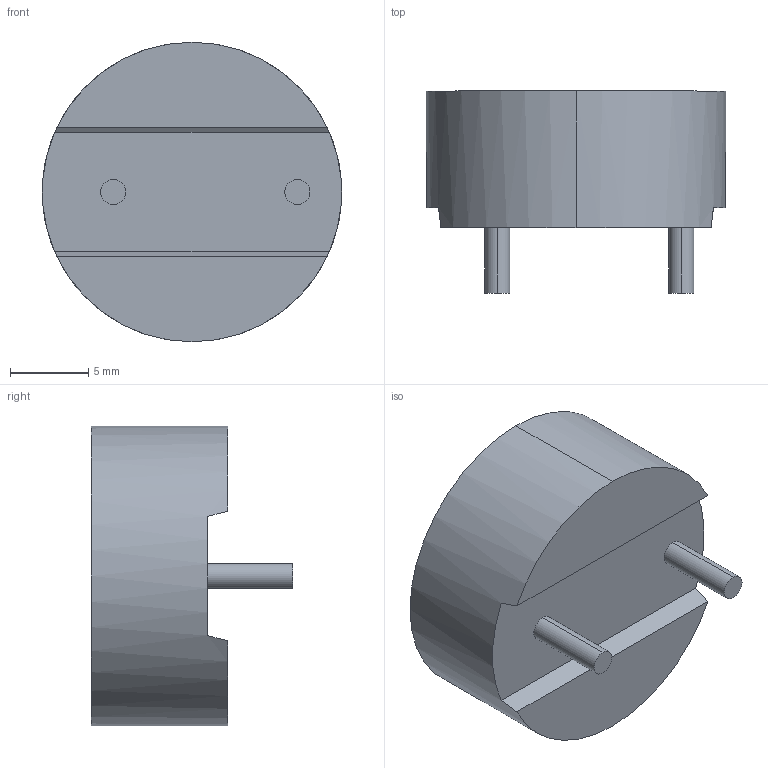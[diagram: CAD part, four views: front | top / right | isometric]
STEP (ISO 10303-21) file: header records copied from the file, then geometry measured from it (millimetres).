
FILE_DESCRIPTION (( 'STEP AP214' ), '1' );
FILE_NAME ('IHTH_IHTH0750IZ 3.3uH.step', '2014-06-30T13:34:37', ( '' ), ( '' ), 'SwSTEP 2.0', 'SolidWorks 2014', '' );
FILE_SCHEMA (( 'AUTOMOTIVE_DESIGN' ));
Length unit declared in the file: inch
Products named in the file (1): IHTH_IHTH0750IZ   3.3uH
Bounding box: 19.18 x 12.93 x 19.18 mm (x, y, z)
Volume: 2357.3 mm3; surface area: 1173 mm2
Topology: 1 solids, 1 shells, 39 faces, 90 edges, 60 vertices
Faces by surface type: plane 33, cylinder 6
Entity records: 1231 total; most frequent: CARTESIAN_POINT 202, DIRECTION 182, ORIENTED_EDGE 180, EDGE_CURVE 90, VECTOR 70, LINE 70, VERTEX_POINT 60, AXIS2_PLACEMENT_3D 56
